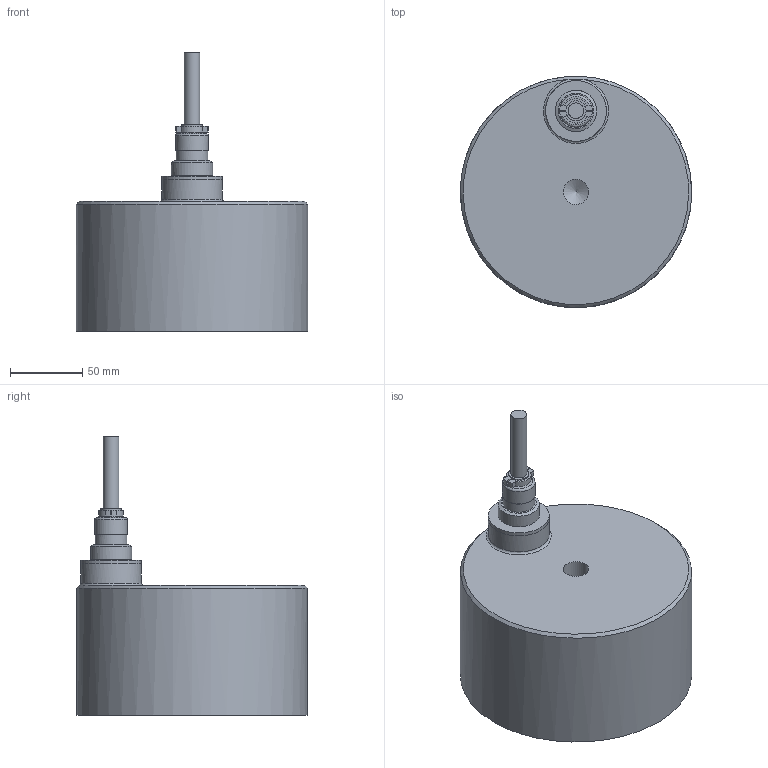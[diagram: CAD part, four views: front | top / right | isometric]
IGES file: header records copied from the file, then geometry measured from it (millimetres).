
Global section: file name: EMH-1-160Dx90H-V; native system: unknown; preprocessor: unknown; author: unknown; organization: unknown; date: 20231215.143139; units: millimetre
Bounding box: 160 x 159.86 x 193 mm (x, y, z)
Volume: 1841966.2 mm3; surface area: 106721.4 mm2
Topology: 8 solids, 8 shells, 117 faces, 248 edges, 162 vertices
Faces by surface type: bspline 117
